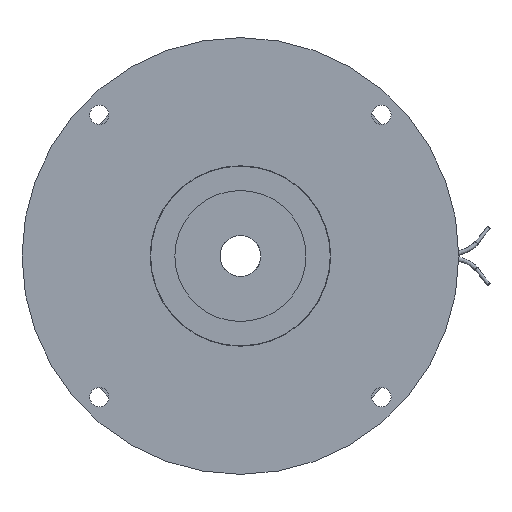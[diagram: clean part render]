
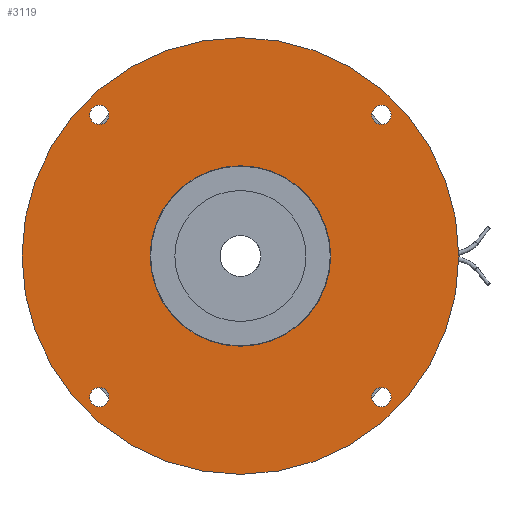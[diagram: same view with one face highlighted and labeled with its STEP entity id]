
A CAD part, left-side view. The second image highlights one B-rep face of the part: STEP entity #3119.
In plain terms, the highlighted planar face has unit normal (-1, 0, 0).
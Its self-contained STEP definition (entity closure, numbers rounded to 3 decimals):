
#131=FACE_BOUND('',#834,.T.);
#132=FACE_BOUND('',#835,.T.);
#133=FACE_BOUND('',#836,.T.);
#134=FACE_BOUND('',#837,.T.);
#135=FACE_BOUND('',#838,.T.);
#486=PLANE('',#3392);
#581=FACE_OUTER_BOUND('',#833,.T.);
#833=EDGE_LOOP('',(#2135));
#834=EDGE_LOOP('',(#2136));
#835=EDGE_LOOP('',(#2137));
#836=EDGE_LOOP('',(#2138));
#837=EDGE_LOOP('',(#2139));
#838=EDGE_LOOP('',(#2140));
#1161=CIRCLE('',#3357,3.3);
#1163=CIRCLE('',#3360,3.3);
#1165=CIRCLE('',#3363,3.3);
#1167=CIRCLE('',#3366,3.3);
#1170=CIRCLE('',#3370,75.);
#1180=CIRCLE('',#3391,31.);
#1399=VERTEX_POINT('',#5064);
#1401=VERTEX_POINT('',#5069);
#1403=VERTEX_POINT('',#5074);
#1405=VERTEX_POINT('',#5079);
#1408=VERTEX_POINT('',#5086);
#1418=VERTEX_POINT('',#5117);
#1682=EDGE_CURVE('',#1399,#1399,#1161,.T.);
#1684=EDGE_CURVE('',#1401,#1401,#1163,.T.);
#1686=EDGE_CURVE('',#1403,#1403,#1165,.T.);
#1688=EDGE_CURVE('',#1405,#1405,#1167,.T.);
#1691=EDGE_CURVE('',#1408,#1408,#1170,.T.);
#1701=EDGE_CURVE('',#1418,#1418,#1180,.T.);
#2135=ORIENTED_EDGE('',*,*,#1691,.F.);
#2136=ORIENTED_EDGE('',*,*,#1682,.T.);
#2137=ORIENTED_EDGE('',*,*,#1684,.T.);
#2138=ORIENTED_EDGE('',*,*,#1686,.T.);
#2139=ORIENTED_EDGE('',*,*,#1688,.T.);
#2140=ORIENTED_EDGE('',*,*,#1701,.T.);
#3119=ADVANCED_FACE('',(#581,#131,#132,#133,#134,#135),#486,.T.);
#3357=AXIS2_PLACEMENT_3D('',#5065,#3864,#3865);
#3360=AXIS2_PLACEMENT_3D('',#5070,#3870,#3871);
#3363=AXIS2_PLACEMENT_3D('',#5075,#3876,#3877);
#3366=AXIS2_PLACEMENT_3D('',#5080,#3882,#3883);
#3370=AXIS2_PLACEMENT_3D('',#5087,#3890,#3891);
#3391=AXIS2_PLACEMENT_3D('',#5118,#3932,#3933);
#3392=AXIS2_PLACEMENT_3D('',#5119,#3934,#3935);
#3864=DIRECTION('center_axis',(1.,0.,0.));
#3865=DIRECTION('ref_axis',(0.,0.,-1.));
#3870=DIRECTION('center_axis',(1.,0.,0.));
#3871=DIRECTION('ref_axis',(0.,0.,-1.));
#3876=DIRECTION('center_axis',(1.,0.,0.));
#3877=DIRECTION('ref_axis',(0.,0.,-1.));
#3882=DIRECTION('center_axis',(1.,0.,0.));
#3883=DIRECTION('ref_axis',(0.,0.,-1.));
#3890=DIRECTION('center_axis',(1.,0.,0.));
#3891=DIRECTION('ref_axis',(0.,0.,-1.));
#3932=DIRECTION('center_axis',(1.,0.,0.));
#3933=DIRECTION('ref_axis',(0.,0.,-1.));
#3934=DIRECTION('center_axis',(-1.,0.,0.));
#3935=DIRECTION('ref_axis',(0.,0.,1.));
#5064=CARTESIAN_POINT('',(-12.,-48.437,-45.137));
#5065=CARTESIAN_POINT('Origin',(-12.,-48.437,-48.437));
#5069=CARTESIAN_POINT('',(-12.,48.437,51.737));
#5070=CARTESIAN_POINT('Origin',(-12.,48.437,48.437));
#5074=CARTESIAN_POINT('',(-12.,-48.437,51.737));
#5075=CARTESIAN_POINT('Origin',(-12.,-48.437,48.437));
#5079=CARTESIAN_POINT('',(-12.,48.437,-45.137));
#5080=CARTESIAN_POINT('Origin',(-12.,48.437,-48.437));
#5086=CARTESIAN_POINT('',(-12.,75.,0.));
#5087=CARTESIAN_POINT('Origin',(-12.,0.,0.));
#5117=CARTESIAN_POINT('',(-12.,31.,0.));
#5118=CARTESIAN_POINT('Origin',(-12.,0.,0.));
#5119=CARTESIAN_POINT('Origin',(-12.,75.,0.));
